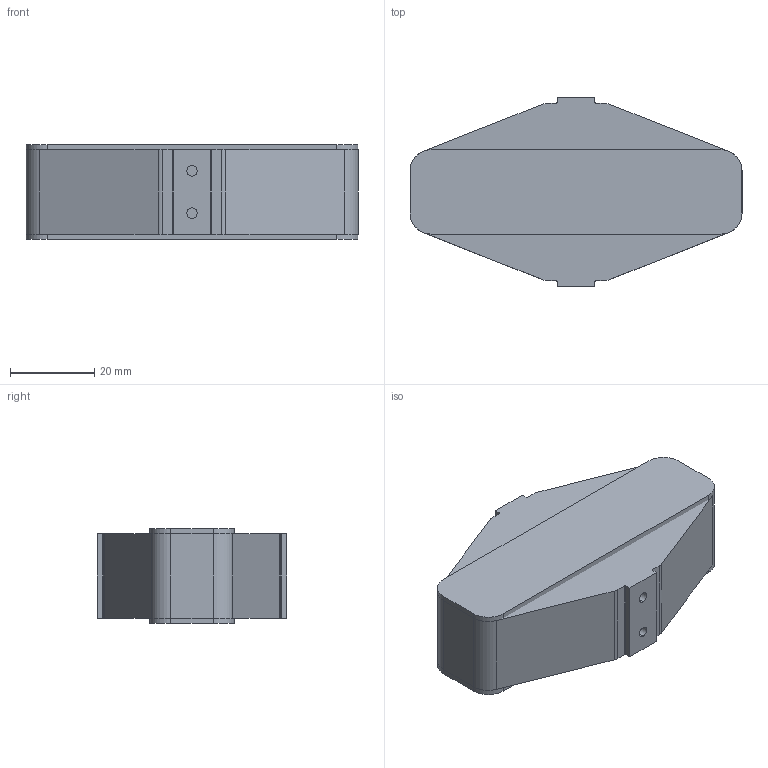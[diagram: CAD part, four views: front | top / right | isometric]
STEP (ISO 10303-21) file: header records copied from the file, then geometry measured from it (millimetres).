
FILE_DESCRIPTION (( 'STEP AP203' ), '1' );
FILE_NAME ('115A10ÍâÐÎ³ß´çÍ¼-2023.11.08.STEP', '2023-11-08T03:50:45', ( 'User' ), ( 'china' ), 'SwSTEP 2.0', 'SolidWorks 2016', '' );
FILE_SCHEMA (( 'CONFIG_CONTROL_DESIGN' ));
Length unit declared in the file: millimetre
Products named in the file (1): 115A10俋倛喜渡芞-2023.11.08
Bounding box: 78.8 x 45 x 22.5 mm (x, y, z)
Surface area: 16759.7 mm2 (no closed solid volume)
Topology: 0 solids, 2 shells, 42 faces, 120 edges, 80 vertices
Faces by surface type: plane 22, cylinder 20
Entity records: 1462 total; most frequent: DIRECTION 246, CARTESIAN_POINT 243, ORIENTED_EDGE 232, EDGE_CURVE 120, AXIS2_PLACEMENT_3D 83, LINE 80, VECTOR 80, VERTEX_POINT 80
